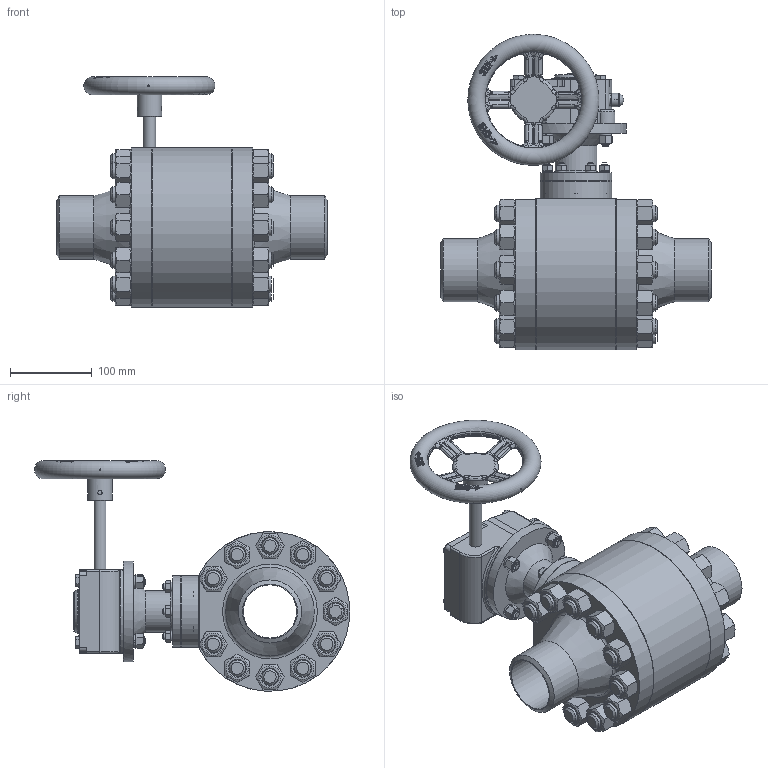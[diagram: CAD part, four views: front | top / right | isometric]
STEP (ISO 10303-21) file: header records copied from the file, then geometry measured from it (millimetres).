
FILE_DESCRIPTION(('STEP AP203'), '1');
FILE_NAME('ZARDP 065.160.40.P.stp', '2013-12-06T10:26:30', ('1'), ('1'), 'ASCON STEP Converter 1.3', 'Kompas 3D', '');
FILE_SCHEMA(('CONFIG_CONTROL_DESIGN','SUPPORT_RESOURCE_SCHEMA'));
Length unit declared in the file: millimetre
Products named in the file (1): 254
Bounding box: 330 x 384.74 x 281.36 mm (x, y, z)
Volume: 4839568.2 mm3; surface area: 707938.4 mm2
Topology: 1 solids, 76 shells, 2541 faces, 6167 edges, 3858 vertices
Faces by surface type: plane 1130, cylinder 553, cone 448, bspline 273, torus 91, extrusion 27, sphere 19
Full cylindrical faces by diameter (mm): 2 x4, 3.242 x4, 4.917 x18, 5.1 x1, 6.647 x10, 8 x12, 8.376 x8, 9 x6, 10 x14, 10.106 x6, 10.4 x1, 11 x4, 12 x6, 13 x6, 15 x2, 16 x2, 16.5 x2, 17.294 x22, 18 x8, 20 x50, 22 x22, 30 x2, 39.6 x2, 40 x1, 40.5 x1, 41 x1, 41.35 x2, 42.35 x2, 42.5 x2, 45 x1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
Entity records: 155490 total; most frequent: CARTESIAN_POINT 100179, ORIENTED_EDGE 12166, DIRECTION 10239, EDGE_CURVE 6083, AXIS2_PLACEMENT_3D 3914, VERTEX_POINT 3859, EDGE_LOOP 2778, ADVANCED_FACE 2539
